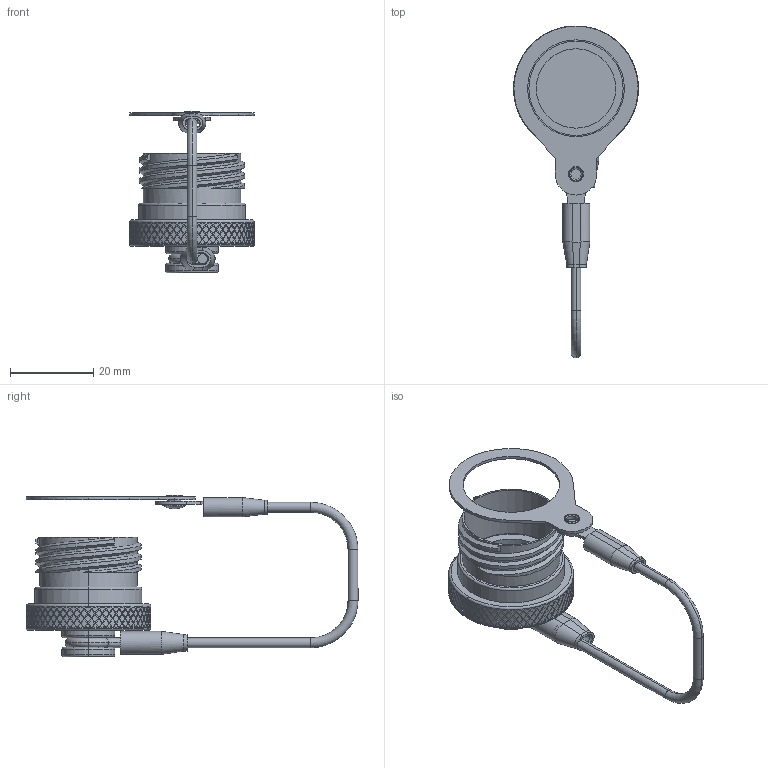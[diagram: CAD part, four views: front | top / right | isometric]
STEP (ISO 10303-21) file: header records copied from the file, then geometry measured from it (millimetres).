
FILE_DESCRIPTION (( 'STEP AP214' ), '1' );
FILE_NAME ('Q38DC-PRX-15-R0.STEP', '2026-04-22T18:37:09', ( '' ), ( '' ), 'SwSTEP 2.0', 'SolidWorks 2024', '' );
FILE_SCHEMA (( 'AUTOMOTIVE_DESIGN' ));
Length unit declared in the file: inch
Products named in the file (11): Q38DC-PRX-15-R0; Q38-XX29-P_15P; HEAT SHRINK_HS-125-625S; SW-XRXX_SW-SR13; SW-348; LN-06-07-13_Q38DC-PRX-15 (Assembled); SW-347; HEAT SHRINK_HS-250X625_SW-348; SW-349_SW-349; Lanyard Assembly Q38_Q38DC-PRX-15 (Assembled); Q38-XX28-X_Q38-1528
Assembly tree (10 placements, depth 3):
  Q38DC-PRX-15-R0
    Q38-XX28-X_Q38-1528
    Lanyard Assembly Q38_Q38DC-PRX-15 (Assembled)
      LN-06-07-13_Q38DC-PRX-15 (Assembled)
      SW-348
      HEAT SHRINK_HS-250X625_SW-348
      SW-347
      HEAT SHRINK_HS-125-625S
      SW-349_SW-349
      SW-XRXX_SW-SR13
    Q38-XX29-P_15P
Bounding box: 29.95 x 79.61 x 38.81 mm (x, y, z)
Volume: 7173.3 mm3; surface area: 9627.6 mm2
Topology: 9 solids, 9 shells, 1580 faces, 3787 edges, 2496 vertices
Faces by surface type: plane 1167, cylinder 362, torus 32, bspline 17, sphere 2
Entity records: 47778 total; most frequent: CARTESIAN_POINT 16152, ORIENTED_EDGE 7574, DIRECTION 5365, EDGE_CURVE 3787, VERTEX_POINT 2496, AXIS2_PLACEMENT_3D 2018, EDGE_LOOP 1865, FACE_OUTER_BOUND 1580
